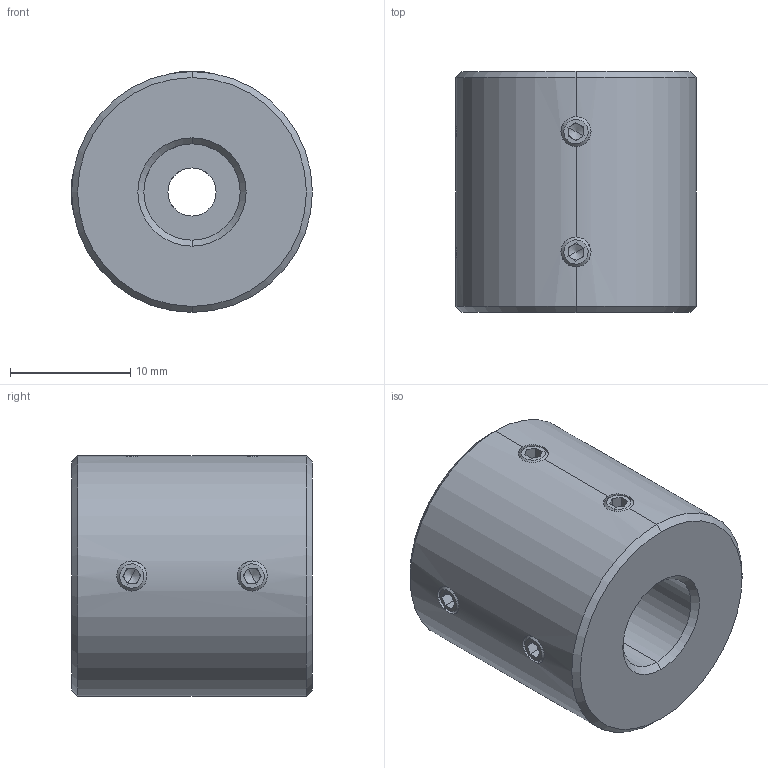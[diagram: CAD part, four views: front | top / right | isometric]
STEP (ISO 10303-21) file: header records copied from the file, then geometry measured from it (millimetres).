
FILE_DESCRIPTION (( 'STEP AP214' ), '1' );
FILE_NAME ('LL-D-D20L20-4-8.STEP', '2022-07-23T06:28:32', ( '' ), ( '' ), 'SwSTEP 2.0', 'SolidWorks 2022', '' );
FILE_SCHEMA (( 'AUTOMOTIVE_DESIGN' ));
Length unit declared in the file: millimetre
Products named in the file (1): LL-D-D20L20-4-8
Bounding box: 20 x 20 x 20 mm (x, y, z)
Volume: 5562.5 mm3; surface area: 2340 mm2
Topology: 1 solids, 1 shells, 113 faces, 286 edges, 176 vertices
Faces by surface type: plane 59, cone 32, cylinder 22
Entity records: 3640 total; most frequent: CARTESIAN_POINT 890, DIRECTION 582, ORIENTED_EDGE 556, EDGE_CURVE 278, AXIS2_PLACEMENT_3D 214, VERTEX_POINT 176, LINE 154, VECTOR 154
